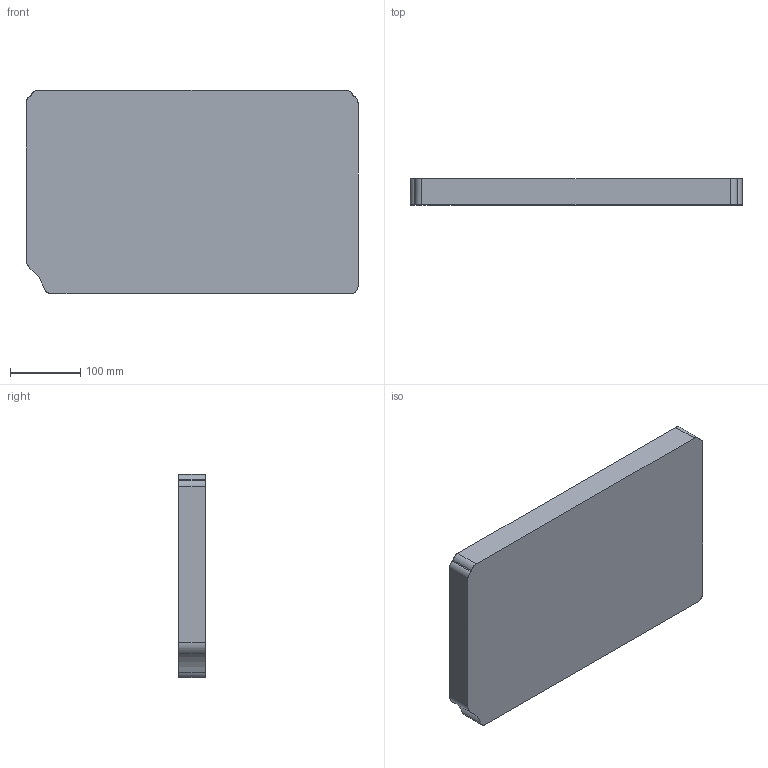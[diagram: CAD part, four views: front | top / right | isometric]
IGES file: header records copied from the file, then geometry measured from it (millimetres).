
Start section: SolidWorks IGES file using analytic representation for surfaces
Global section: file name: C:\Users\cchaiyont\My Project\SARTKII\SARTKII CAD\SARTK PID\0450G2 Shallow drawer 12-4-2019.IGS; native system: SolidWorks 2016; preprocessor: SolidWorks 2016; author: cchaiyont; date: 200204.194025; units: inch
Bounding box: 471.56 x 37.08 x 288.54 mm (x, y, z)
Surface area: 365441.1 mm2 (no closed solid volume)
Topology: 0 solids, 0 shells, 47 faces, 414 edges, 412 vertices
Faces by surface type: bspline 28, revolution 19
